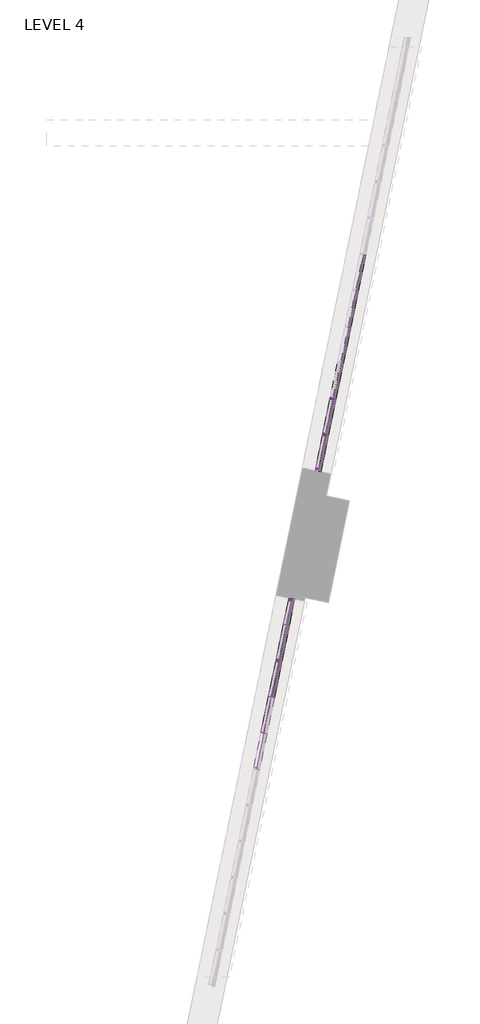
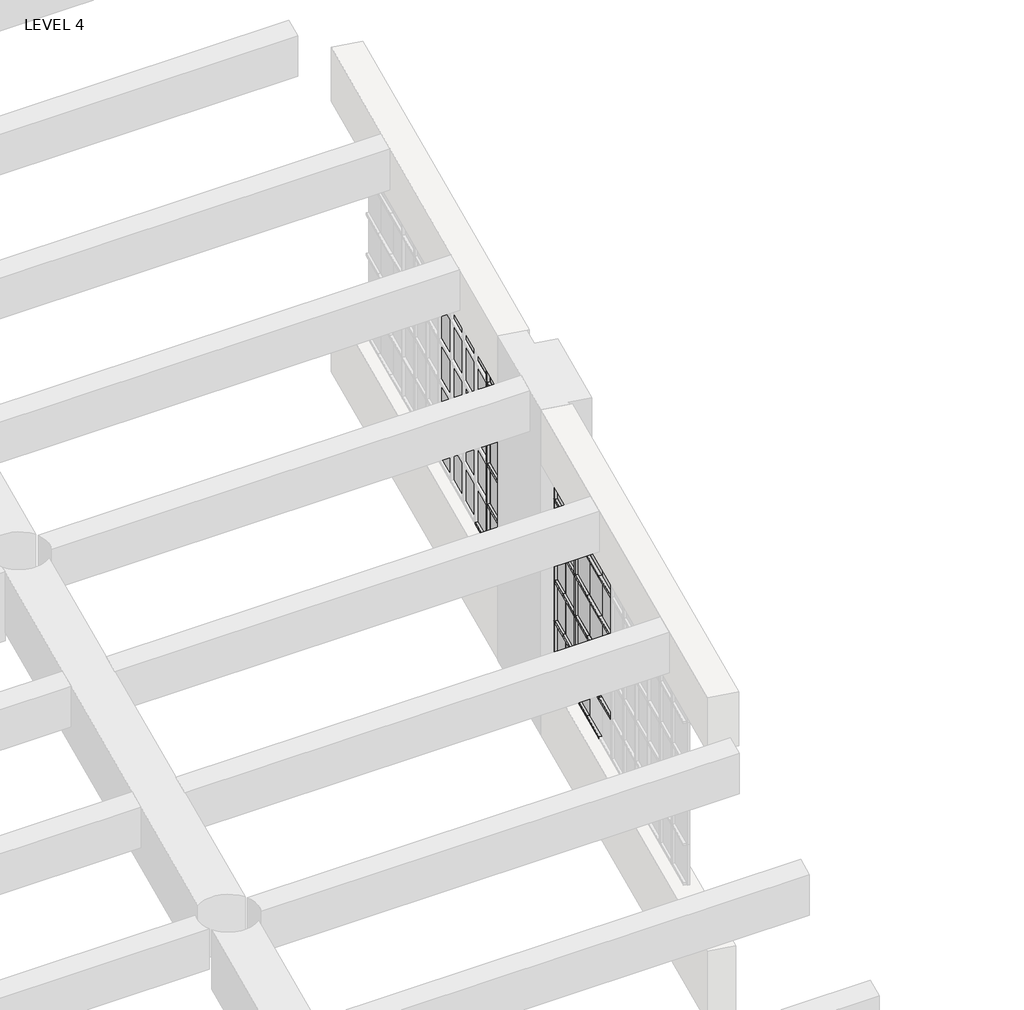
# One storey, part 21 of 26: 67 members, 51 plates.
"""IFC4 building model written with IfcOpenShell, lengths in millimetres."""

from ifc_helpers import new_model, si_unit, origin, place, context, project, spatial, transform, mapped, element, save
from components import member_038dcf1c, member_0e6c94ff, member_d9fec558, member_3d4b608b, member_3c10d71f, member_653bb31e, member_9ec6e97d, member_6e26db71, member_643a3807, member_ec43e15b, member_6c57b699, member_0f6da5c5, member_4e7b30ca, member_41439c15, system_panel_glazed_ab35d819, system_panel_glazed_9007666c, system_panel_glazed_418eb6cd, system_panel_glazed_a50cffbe

model = new_model("IFC4")

# Units and contexts
model_context = context("Model", 3, world=origin())
ifc_project = project(units=[si_unit("LENGTHUNIT", "METRE", prefix="MILLI")], contexts=[model_context])

# Site, building, storey
site = spatial("IfcSite", under=ifc_project)
building = spatial("IfcBuilding", under=site)
storey = spatial("IfcBuildingStorey", under=building, Name="LEVEL 4", Elevation=0.0)

# Members
placement = place(None, origin())
member_shape = member_038dcf1c(model_context)
element("IfcMember", 1, ObjectType="Circular Mullion : 1 1/4\" Square", at=placement, inside=storey, context=model_context, shape_type="MappedRepresentation", body=[
    mapped(member_shape, transform((21560.2078934, 106065.3665584, 2628.9), x_axis=(-0.2022212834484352, -0.9793398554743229, 0.0), y_axis=(0.9793398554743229, -0.2022212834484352, 0.0), z_axis=(0.0, 0.0, 1.0))),
])
element("IfcMember", 2, ObjectType="Circular Mullion : 1 1/4\" Square", at=placement, inside=storey, context=model_context, shape_type="MappedRepresentation", body=[
    mapped(member_shape, transform((21560.2078934, 106065.3665584, 2171.7), x_axis=(-0.2022212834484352, -0.9793398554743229, 0.0), y_axis=(0.9793398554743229, -0.2022212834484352, 0.0), z_axis=(0.0, 0.0, 1.0))),
])
element("IfcMember", 3, ObjectType="Circular Mullion : 1 1/4\" Square", at=placement, inside=storey, context=model_context, shape_type="MappedRepresentation", body=[
    mapped(member_shape, transform((21560.2078934, 106065.3665584, 1714.5), x_axis=(-0.2022212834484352, -0.9793398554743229, 0.0), y_axis=(0.9793398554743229, -0.2022212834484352, 0.0), z_axis=(0.0, 0.0, 1.0))),
])
element("IfcMember", 4, ObjectType="Circular Mullion : 1 1/4\" Square", at=placement, inside=storey, context=model_context, shape_type="MappedRepresentation", body=[
    mapped(member_shape, transform((21304.7441324, 104834.2926022, 2171.7), x_axis=(0.20222128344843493, 0.979339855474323, 0.0), y_axis=(0.979339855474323, -0.20222128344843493, 0.0), z_axis=(0.0, 0.0, -1.0))),
])
element("IfcMember", 5, ObjectType="Circular Mullion : 1 1/4\" Square", at=placement, inside=storey, context=model_context, shape_type="MappedRepresentation", body=[
    mapped(member_shape, transform((21304.7441324, 104834.2926022, 1714.5), x_axis=(0.20222128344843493, 0.979339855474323, 0.0), y_axis=(0.979339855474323, -0.20222128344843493, 0.0), z_axis=(0.0, 0.0, -1.0))),
])
element("IfcMember", 6, ObjectType="Circular Mullion : 1 1/4\" Square", at=placement, inside=storey, context=model_context, shape_type="MappedRepresentation", body=[
    mapped(member_shape, transform((21304.7441324, 104834.2926022, 1257.3), x_axis=(0.20222128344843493, 0.979339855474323, 0.0), y_axis=(0.979339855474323, -0.20222128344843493, 0.0), z_axis=(0.0, 0.0, -1.0))),
])
element("IfcMember", 7, ObjectType="Circular Mullion : 1 1/4\" Square", at=placement, inside=storey, context=model_context, shape_type="MappedRepresentation", body=[
    mapped(member_shape, transform((21560.2078934, 106065.3665584, 1257.3), x_axis=(-0.2022212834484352, -0.9793398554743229, 0.0), y_axis=(0.9793398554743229, -0.2022212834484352, 0.0), z_axis=(0.0, 0.0, 1.0))),
])
element("IfcMember", 8, ObjectType="Circular Mullion : 1 1/4\" Square", at=placement, inside=storey, context=model_context, shape_type="MappedRepresentation", body=[
    mapped(member_shape, transform((21304.7441324, 104834.2926022, 800.1), x_axis=(0.20222128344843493, 0.979339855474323, 0.0), y_axis=(0.979339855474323, -0.20222128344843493, 0.0), z_axis=(0.0, 0.0, -1.0))),
])
member_2_shape = member_0e6c94ff(model_context)
element("IfcMember", 9, ObjectType="Circular Mullion : 1 1/4\" Square", at=placement, inside=storey, context=model_context, shape_type="MappedRepresentation", body=[
    mapped(member_2_shape, transform((21560.2078934, 106065.3665584, 3060.7), x_axis=(-0.2022212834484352, -0.9793398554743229, 0.0), y_axis=(0.9793398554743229, -0.2022212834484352, 0.0), z_axis=(0.0, 0.0, 1.0))),
])
element("IfcMember", 10, ObjectType="Circular Mullion : 1 1/4\" Square", at=placement, inside=storey, context=model_context, shape_type="MappedRepresentation", body=[
    mapped(member_2_shape, transform((21304.7441324, 104834.2926022, 2628.9), x_axis=(0.20222128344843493, 0.979339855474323, 0.0), y_axis=(0.979339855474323, -0.20222128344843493, 0.0), z_axis=(0.0, 0.0, -1.0))),
])
member_3_shape = member_d9fec558(model_context)
element("IfcMember", 11, ObjectType="Circular Mullion : 1 1/4\" Square", at=placement, inside=storey, context=model_context, shape_type="MappedRepresentation", body=[
    mapped(member_3_shape, transform((21181.4700381, 104237.2870266, 2628.9), x_axis=(0.20222128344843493, 0.979339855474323, 0.0), y_axis=(0.979339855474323, -0.20222128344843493, 0.0), z_axis=(0.0, 0.0, -1.0))),
])
element("IfcMember", 12, ObjectType="Circular Mullion : 1 1/4\" Square", at=placement, inside=storey, context=model_context, shape_type="MappedRepresentation", body=[
    mapped(member_3_shape, transform((21704.0276702, 106761.873064, 2628.9), x_axis=(0.2022212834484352, 0.9793398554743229, 0.0), y_axis=(0.9793398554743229, -0.2022212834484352, 0.0), z_axis=(0.0, 0.0, -1.0))),
])
element("IfcMember", 13, ObjectType="Circular Mullion : 1 1/4\" Square", at=placement, inside=storey, context=model_context, shape_type="MappedRepresentation", body=[
    mapped(member_3_shape, transform((21632.1177818, 106413.6198113, 2628.9), x_axis=(0.2022212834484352, 0.9793398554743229, 0.0), y_axis=(0.9793398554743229, -0.2022212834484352, 0.0), z_axis=(0.0, 0.0, -1.0))),
])
member_4_shape = member_3d4b608b(model_context)
element("IfcMember", 14, ObjectType="Circular Mullion : 1 1/4\" Square", at=placement, inside=storey, context=model_context, shape_type="MappedRepresentation", body=[
    mapped(member_4_shape, transform((21181.4700381, 104237.2870266, 2171.7), x_axis=(0.20222128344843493, 0.979339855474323, 0.0), y_axis=(0.979339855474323, -0.20222128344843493, 0.0), z_axis=(0.0, 0.0, -1.0))),
])
element("IfcMember", 15, ObjectType="Circular Mullion : 1 1/4\" Square", at=placement, inside=storey, context=model_context, shape_type="MappedRepresentation", body=[
    mapped(member_4_shape, transform((21181.4700381, 104237.2870266, 1714.5), x_axis=(0.20222128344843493, 0.979339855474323, 0.0), y_axis=(0.979339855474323, -0.20222128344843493, 0.0), z_axis=(0.0, 0.0, -1.0))),
])
element("IfcMember", 16, ObjectType="Circular Mullion : 1 1/4\" Square", at=placement, inside=storey, context=model_context, shape_type="MappedRepresentation", body=[
    mapped(member_4_shape, transform((21181.4700381, 104237.2870266, 1257.3), x_axis=(0.20222128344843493, 0.979339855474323, 0.0), y_axis=(0.979339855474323, -0.20222128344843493, 0.0), z_axis=(0.0, 0.0, -1.0))),
])
element("IfcMember", 17, ObjectType="Circular Mullion : 1 1/4\" Square", at=placement, inside=storey, context=model_context, shape_type="MappedRepresentation", body=[
    mapped(member_4_shape, transform((21704.0276702, 106761.873064, 2171.7), x_axis=(0.2022212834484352, 0.9793398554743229, 0.0), y_axis=(0.9793398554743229, -0.2022212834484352, 0.0), z_axis=(0.0, 0.0, -1.0))),
])
element("IfcMember", 18, ObjectType="Circular Mullion : 1 1/4\" Square", at=placement, inside=storey, context=model_context, shape_type="MappedRepresentation", body=[
    mapped(member_4_shape, transform((21704.0276702, 106761.873064, 1714.5), x_axis=(0.2022212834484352, 0.9793398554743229, 0.0), y_axis=(0.9793398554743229, -0.2022212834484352, 0.0), z_axis=(0.0, 0.0, -1.0))),
])
element("IfcMember", 19, ObjectType="Circular Mullion : 1 1/4\" Square", at=placement, inside=storey, context=model_context, shape_type="MappedRepresentation", body=[
    mapped(member_4_shape, transform((21704.0276702, 106761.873064, 1257.3), x_axis=(0.2022212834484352, 0.9793398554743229, 0.0), y_axis=(0.9793398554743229, -0.2022212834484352, 0.0), z_axis=(0.0, 0.0, -1.0))),
])
element("IfcMember", 20, ObjectType="Circular Mullion : 1 1/4\" Square", at=placement, inside=storey, context=model_context, shape_type="MappedRepresentation", body=[
    mapped(member_4_shape, transform((21632.1177818, 106413.6198113, 2171.7), x_axis=(0.2022212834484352, 0.9793398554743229, 0.0), y_axis=(0.9793398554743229, -0.2022212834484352, 0.0), z_axis=(0.0, 0.0, -1.0))),
])
element("IfcMember", 21, ObjectType="Circular Mullion : 1 1/4\" Square", at=placement, inside=storey, context=model_context, shape_type="MappedRepresentation", body=[
    mapped(member_4_shape, transform((21632.1177818, 106413.6198113, 1714.5), x_axis=(0.2022212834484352, 0.9793398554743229, 0.0), y_axis=(0.9793398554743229, -0.2022212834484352, 0.0), z_axis=(0.0, 0.0, -1.0))),
])
element("IfcMember", 22, ObjectType="Circular Mullion : 1 1/4\" Square", at=placement, inside=storey, context=model_context, shape_type="MappedRepresentation", body=[
    mapped(member_4_shape, transform((21632.1177818, 106413.6198113, 1257.3), x_axis=(0.2022212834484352, 0.9793398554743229, 0.0), y_axis=(0.9793398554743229, -0.2022212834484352, 0.0), z_axis=(0.0, 0.0, -1.0))),
])
element("IfcMember", 23, ObjectType="Circular Mullion : 1 1/4\" Square", at=placement, inside=storey, context=model_context, shape_type="MappedRepresentation", body=[
    mapped(member_4_shape, transform((21181.4700381, 104237.2870266, 800.1), x_axis=(0.20222128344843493, 0.979339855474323, 0.0), y_axis=(0.979339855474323, -0.20222128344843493, 0.0), z_axis=(0.0, 0.0, -1.0))),
])
element("IfcMember", 24, ObjectType="Circular Mullion : 1 1/4\" Square", at=placement, inside=storey, context=model_context, shape_type="MappedRepresentation", body=[
    mapped(member_4_shape, transform((21704.0276702, 106761.873064, 800.1), x_axis=(0.2022212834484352, 0.9793398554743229, 0.0), y_axis=(0.9793398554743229, -0.2022212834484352, 0.0), z_axis=(0.0, 0.0, -1.0))),
])
element("IfcMember", 25, ObjectType="Circular Mullion : 1 1/4\" Square", at=placement, inside=storey, context=model_context, shape_type="MappedRepresentation", body=[
    mapped(member_4_shape, transform((21632.1177818, 106413.6198113, 800.1), x_axis=(0.2022212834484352, 0.9793398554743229, 0.0), y_axis=(0.9793398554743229, -0.2022212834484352, 0.0), z_axis=(0.0, 0.0, -1.0))),
])
member_5_shape = member_3c10d71f(model_context)
element("IfcMember", 26, ObjectType="Circular Mullion : 1 1/4\" Square", at=placement, inside=storey, context=model_context, shape_type="MappedRepresentation", body=[
    mapped(member_5_shape, transform((21701.4594599, 106749.4354478, 3060.7), x_axis=(0.0, 0.0, 1.0), y_axis=(0.9793398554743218, -0.20222128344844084, 0.0), z_axis=(0.20222128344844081, 0.9793398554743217, 0.0))),
])
element("IfcMember", 27, ObjectType="Circular Mullion : 1 1/4\" Square", at=placement, inside=storey, context=model_context, shape_type="MappedRepresentation", body=[
    mapped(member_5_shape, transform((21634.6859921, 106426.0574275, 800.1), x_axis=(0.0, 0.0, -1.0), y_axis=(0.9793398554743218, -0.20222128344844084, 0.0), z_axis=(-0.20222128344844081, -0.9793398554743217, 0.0))),
])
element("IfcMember", 28, ObjectType="Circular Mullion : 1 1/4\" Square", at=placement, inside=storey, context=model_context, shape_type="MappedRepresentation", body=[
    mapped(member_5_shape, transform((21706.5958805, 106774.3106801, 800.1), x_axis=(0.0, 0.0, -1.0), y_axis=(0.9793398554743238, -0.20222128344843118, 0.0), z_axis=(-0.20222128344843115, -0.9793398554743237, 0.0))),
])
member_6_shape = member_653bb31e(model_context)
element("IfcMember", 29, ObjectType="Circular Mullion : 1 1/4\" Square", at=placement, inside=storey, context=model_context, shape_type="MappedRepresentation", body=[
    mapped(member_6_shape, transform((21701.4594599, 106749.4354478, 2628.9), x_axis=(0.0, 0.0, 1.0), y_axis=(0.9793398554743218, -0.20222128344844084, 0.0), z_axis=(0.20222128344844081, 0.9793398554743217, 0.0))),
])
element("IfcMember", 30, ObjectType="Circular Mullion : 1 1/4\" Square", at=placement, inside=storey, context=model_context, shape_type="MappedRepresentation", body=[
    mapped(member_6_shape, transform((21701.4594599, 106749.4354478, 2171.7), x_axis=(0.0, 0.0, 1.0), y_axis=(0.9793398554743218, -0.20222128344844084, 0.0), z_axis=(0.20222128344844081, 0.9793398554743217, 0.0))),
])
element("IfcMember", 31, ObjectType="Circular Mullion : 1 1/4\" Square", at=placement, inside=storey, context=model_context, shape_type="MappedRepresentation", body=[
    mapped(member_6_shape, transform((21701.4594599, 106749.4354478, 1714.5), x_axis=(0.0, 0.0, 1.0), y_axis=(0.9793398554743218, -0.20222128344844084, 0.0), z_axis=(0.20222128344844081, 0.9793398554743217, 0.0))),
])
element("IfcMember", 32, ObjectType="Circular Mullion : 1 1/4\" Square", at=placement, inside=storey, context=model_context, shape_type="MappedRepresentation", body=[
    mapped(member_6_shape, transform((21701.4594599, 106749.4354478, 1257.3), x_axis=(0.0, 0.0, 1.0), y_axis=(0.9793398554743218, -0.20222128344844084, 0.0), z_axis=(0.20222128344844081, 0.9793398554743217, 0.0))),
])
member_7_shape = member_9ec6e97d(model_context)
element("IfcMember", 33, ObjectType="Circular Mullion : 1 1/4\" Square", at=placement, inside=storey, context=model_context, shape_type="MappedRepresentation", body=[
    mapped(member_7_shape, transform((21629.5495715, 106401.1821952, 3060.7), x_axis=(0.0, 0.0, 1.0), y_axis=(0.9793398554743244, -0.2022212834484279, 0.0), z_axis=(0.20222128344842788, 0.9793398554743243, 0.0))),
])
element("IfcMember", 34, ObjectType="Circular Mullion : 1 1/4\" Square", at=placement, inside=storey, context=model_context, shape_type="MappedRepresentation", body=[
    mapped(member_7_shape, transform((21565.3443139, 106090.2417908, 800.1), x_axis=(0.0, 0.0, -1.0), y_axis=(0.9793398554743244, -0.2022212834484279, 0.0), z_axis=(-0.20222128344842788, -0.9793398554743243, 0.0))),
])
member_8_shape = member_6e26db71(model_context)
element("IfcMember", 35, ObjectType="Circular Mullion : 1 1/4\" Square", at=placement, inside=storey, context=model_context, shape_type="MappedRepresentation", body=[
    mapped(member_8_shape, transform((21629.5495715, 106401.1821952, 2628.9), x_axis=(0.0, 0.0, 1.0), y_axis=(0.9793398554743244, -0.2022212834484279, 0.0), z_axis=(0.20222128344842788, 0.9793398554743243, 0.0))),
])
element("IfcMember", 36, ObjectType="Circular Mullion : 1 1/4\" Square", at=placement, inside=storey, context=model_context, shape_type="MappedRepresentation", body=[
    mapped(member_8_shape, transform((21629.5495715, 106401.1821952, 2171.7), x_axis=(0.0, 0.0, 1.0), y_axis=(0.9793398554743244, -0.2022212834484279, 0.0), z_axis=(0.20222128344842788, 0.9793398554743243, 0.0))),
])
element("IfcMember", 37, ObjectType="Circular Mullion : 1 1/4\" Square", at=placement, inside=storey, context=model_context, shape_type="MappedRepresentation", body=[
    mapped(member_8_shape, transform((21629.5495715, 106401.1821952, 1714.5), x_axis=(0.0, 0.0, 1.0), y_axis=(0.9793398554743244, -0.2022212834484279, 0.0), z_axis=(0.20222128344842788, 0.9793398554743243, 0.0))),
])
element("IfcMember", 38, ObjectType="Circular Mullion : 1 1/4\" Square", at=placement, inside=storey, context=model_context, shape_type="MappedRepresentation", body=[
    mapped(member_8_shape, transform((21629.5495715, 106401.1821952, 1257.3), x_axis=(0.0, 0.0, 1.0), y_axis=(0.9793398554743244, -0.2022212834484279, 0.0), z_axis=(0.20222128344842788, 0.9793398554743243, 0.0))),
])
member_9_shape = member_643a3807(model_context)
element("IfcMember", 39, ObjectType="Circular Mullion : 1 1/4\" Square", at=placement, inside=storey, context=model_context, shape_type="MappedRepresentation", body=[
    mapped(member_9_shape, transform((21109.5601497, 103889.033774, 2628.9), x_axis=(0.0, 0.0, 1.0), y_axis=(0.9793398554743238, -0.20222128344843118, 0.0), z_axis=(0.20222128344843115, 0.9793398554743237, 0.0))),
])
element("IfcMember", 40, ObjectType="Circular Mullion : 1 1/4\" Square", at=placement, inside=storey, context=model_context, shape_type="MappedRepresentation", body=[
    mapped(member_9_shape, transform((21109.5601497, 103889.033774, 2171.7), x_axis=(0.0, 0.0, 1.0), y_axis=(0.9793398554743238, -0.20222128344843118, 0.0), z_axis=(0.20222128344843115, 0.9793398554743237, 0.0))),
])
element("IfcMember", 41, ObjectType="Circular Mullion : 1 1/4\" Square", at=placement, inside=storey, context=model_context, shape_type="MappedRepresentation", body=[
    mapped(member_9_shape, transform((21109.5601497, 103889.033774, 1714.5), x_axis=(0.0, 0.0, 1.0), y_axis=(0.9793398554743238, -0.20222128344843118, 0.0), z_axis=(0.20222128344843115, 0.9793398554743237, 0.0))),
])
element("IfcMember", 42, ObjectType="Circular Mullion : 1 1/4\" Square", at=placement, inside=storey, context=model_context, shape_type="MappedRepresentation", body=[
    mapped(member_9_shape, transform((21109.5601497, 103889.033774, 1257.3), x_axis=(0.0, 0.0, 1.0), y_axis=(0.9793398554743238, -0.20222128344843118, 0.0), z_axis=(0.20222128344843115, 0.9793398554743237, 0.0))),
])
member_10_shape = member_ec43e15b(model_context)
element("IfcMember", 43, ObjectType="Circular Mullion : 1 1/4\" Square", at=placement, inside=storey, context=model_context, shape_type="MappedRepresentation", body=[
    mapped(member_10_shape, transform((21109.5601497, 103889.033774, 3060.7), x_axis=(0.0, 0.0, 1.0), y_axis=(0.9793398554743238, -0.20222128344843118, 0.0), z_axis=(0.20222128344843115, 0.9793398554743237, 0.0))),
])
member_11_shape = member_6c57b699(model_context)
element("IfcMember", 44, ObjectType="Circular Mullion : 1 1/4\" Square", at=placement, inside=storey, context=model_context, shape_type="MappedRepresentation", body=[
    mapped(member_11_shape, transform((21037.6502613, 103540.7805214, 2628.9), x_axis=(0.0, 0.0, 1.0), y_axis=(0.9793398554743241, -0.20222128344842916, 0.0), z_axis=(0.20222128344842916, 0.9793398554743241, 0.0))),
])
element("IfcMember", 45, ObjectType="Circular Mullion : 1 1/4\" Square", at=placement, inside=storey, context=model_context, shape_type="MappedRepresentation", body=[
    mapped(member_11_shape, transform((21253.3799265, 104585.5402792, 2628.9), x_axis=(0.0, 0.0, 1.0), y_axis=(0.9793398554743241, -0.20222128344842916, 0.0), z_axis=(0.20222128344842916, 0.9793398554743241, 0.0))),
])
element("IfcMember", 46, ObjectType="Circular Mullion : 1 1/4\" Square", at=placement, inside=storey, context=model_context, shape_type="MappedRepresentation", body=[
    mapped(member_11_shape, transform((21037.6502613, 103540.7805214, 2171.7), x_axis=(0.0, 0.0, 1.0), y_axis=(0.9793398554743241, -0.20222128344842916, 0.0), z_axis=(0.20222128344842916, 0.9793398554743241, 0.0))),
])
element("IfcMember", 47, ObjectType="Circular Mullion : 1 1/4\" Square", at=placement, inside=storey, context=model_context, shape_type="MappedRepresentation", body=[
    mapped(member_11_shape, transform((21253.3799265, 104585.5402792, 2171.7), x_axis=(0.0, 0.0, 1.0), y_axis=(0.9793398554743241, -0.20222128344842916, 0.0), z_axis=(0.20222128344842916, 0.9793398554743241, 0.0))),
])
element("IfcMember", 48, ObjectType="Circular Mullion : 1 1/4\" Square", at=placement, inside=storey, context=model_context, shape_type="MappedRepresentation", body=[
    mapped(member_11_shape, transform((21037.6502613, 103540.7805214, 1714.5), x_axis=(0.0, 0.0, 1.0), y_axis=(0.9793398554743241, -0.20222128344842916, 0.0), z_axis=(0.20222128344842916, 0.9793398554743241, 0.0))),
])
element("IfcMember", 49, ObjectType="Circular Mullion : 1 1/4\" Square", at=placement, inside=storey, context=model_context, shape_type="MappedRepresentation", body=[
    mapped(member_11_shape, transform((21253.3799265, 104585.5402792, 1714.5), x_axis=(0.0, 0.0, 1.0), y_axis=(0.9793398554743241, -0.20222128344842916, 0.0), z_axis=(0.20222128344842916, 0.9793398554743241, 0.0))),
])
element("IfcMember", 50, ObjectType="Circular Mullion : 1 1/4\" Square", at=placement, inside=storey, context=model_context, shape_type="MappedRepresentation", body=[
    mapped(member_11_shape, transform((21037.6502613, 103540.7805214, 1257.3), x_axis=(0.0, 0.0, 1.0), y_axis=(0.9793398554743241, -0.20222128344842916, 0.0), z_axis=(0.20222128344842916, 0.9793398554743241, 0.0))),
])
element("IfcMember", 51, ObjectType="Circular Mullion : 1 1/4\" Square", at=placement, inside=storey, context=model_context, shape_type="MappedRepresentation", body=[
    mapped(member_11_shape, transform((21253.3799265, 104585.5402792, 1257.3), x_axis=(0.0, 0.0, 1.0), y_axis=(0.9793398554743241, -0.20222128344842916, 0.0), z_axis=(0.20222128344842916, 0.9793398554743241, 0.0))),
])
member_12_shape = member_0f6da5c5(model_context)
element("IfcMember", 52, ObjectType="Circular Mullion : 1 1/4\" Square", at=placement, inside=storey, context=model_context, shape_type="MappedRepresentation", body=[
    mapped(member_12_shape, transform((21037.6502613, 103540.7805214, 3060.7), x_axis=(0.0, 0.0, 1.0), y_axis=(0.9793398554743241, -0.20222128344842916, 0.0), z_axis=(0.20222128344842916, 0.9793398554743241, 0.0))),
])
element("IfcMember", 53, ObjectType="Circular Mullion : 1 1/4\" Square", at=placement, inside=storey, context=model_context, shape_type="MappedRepresentation", body=[
    mapped(member_12_shape, transform((21253.3799265, 104585.5402792, 3060.7), x_axis=(0.0, 0.0, 1.0), y_axis=(0.9793398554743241, -0.20222128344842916, 0.0), z_axis=(0.20222128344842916, 0.9793398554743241, 0.0))),
])
element("IfcMember", 54, ObjectType="Circular Mullion : 1 1/4\" Square", at=placement, inside=storey, context=model_context, shape_type="MappedRepresentation", body=[
    mapped(member_10_shape, transform((21037.6502613, 103540.7805214, 800.1), x_axis=(0.0, 0.0, -1.0), y_axis=(0.9793398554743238, -0.20222128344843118, 0.0), z_axis=(-0.20222128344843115, -0.9793398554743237, 0.0))),
])
element("IfcMember", 55, ObjectType="Circular Mullion : 1 1/4\" Square", at=placement, inside=storey, context=model_context, shape_type="MappedRepresentation", body=[
    mapped(member_12_shape, transform((21109.5601497, 103889.033774, 800.1), x_axis=(0.0, 0.0, -1.0), y_axis=(0.9793398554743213, -0.20222128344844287, 0.0), z_axis=(-0.20222128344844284, -0.9793398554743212, 0.0))),
])
member_13_shape = member_4e7b30ca(model_context)
element("IfcMember", 56, ObjectType="Circular Mullion : 1 1/4\" Square", at=placement, inside=storey, context=model_context, shape_type="MappedRepresentation", body=[
    mapped(member_13_shape, transform((21299.6077118, 104809.4173699, 3060.7), x_axis=(0.0, 0.0, 1.0), y_axis=(0.9793398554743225, -0.2022212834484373, 0.0), z_axis=(0.2022212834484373, 0.9793398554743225, 0.0))),
])
element("IfcMember", 57, ObjectType="Circular Mullion : 1 1/4\" Square", at=placement, inside=storey, context=model_context, shape_type="MappedRepresentation", body=[
    mapped(member_13_shape, transform((21253.3799265, 104585.5402792, 800.1), x_axis=(0.0, 0.0, -1.0), y_axis=(0.9793398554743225, -0.2022212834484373, 0.0), z_axis=(-0.2022212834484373, -0.9793398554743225, 0.0))),
])
member_14_shape = member_41439c15(model_context)
element("IfcMember", 58, ObjectType="Circular Mullion : 1 1/4\" Square", at=placement, inside=storey, context=model_context, shape_type="MappedRepresentation", body=[
    mapped(member_14_shape, transform((21299.6077118, 104809.4173699, 2628.9), x_axis=(0.0, 0.0, 1.0), y_axis=(0.9793398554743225, -0.2022212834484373, 0.0), z_axis=(0.2022212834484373, 0.9793398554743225, 0.0))),
])
element("IfcMember", 59, ObjectType="Circular Mullion : 1 1/4\" Square", at=placement, inside=storey, context=model_context, shape_type="MappedRepresentation", body=[
    mapped(member_14_shape, transform((21299.6077118, 104809.4173699, 2171.7), x_axis=(0.0, 0.0, 1.0), y_axis=(0.9793398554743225, -0.2022212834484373, 0.0), z_axis=(0.2022212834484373, 0.9793398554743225, 0.0))),
])
element("IfcMember", 60, ObjectType="Circular Mullion : 1 1/4\" Square", at=placement, inside=storey, context=model_context, shape_type="MappedRepresentation", body=[
    mapped(member_14_shape, transform((21299.6077118, 104809.4173699, 1714.5), x_axis=(0.0, 0.0, 1.0), y_axis=(0.9793398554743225, -0.2022212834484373, 0.0), z_axis=(0.2022212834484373, 0.9793398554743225, 0.0))),
])
element("IfcMember", 61, ObjectType="Circular Mullion : 1 1/4\" Square", at=placement, inside=storey, context=model_context, shape_type="MappedRepresentation", body=[
    mapped(member_14_shape, transform((21299.6077118, 104809.4173699, 1257.3), x_axis=(0.0, 0.0, 1.0), y_axis=(0.9793398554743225, -0.2022212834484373, 0.0), z_axis=(0.2022212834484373, 0.9793398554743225, 0.0))),
])
element("IfcMember", 62, ObjectType="Circular Mullion : 1 1/4\" Square", at=placement, inside=storey, context=model_context, shape_type="MappedRepresentation", body=[
    mapped(member_12_shape, transform((21178.9018278, 104224.8494104, 3060.7), x_axis=(0.0, 0.0, 1.0), y_axis=(0.9793398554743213, -0.20222128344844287, 0.0), z_axis=(0.20222128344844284, 0.9793398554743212, 0.0))),
])
element("IfcMember", 63, ObjectType="Circular Mullion : 1 1/4\" Square", at=placement, inside=storey, context=model_context, shape_type="MappedRepresentation", body=[
    mapped(member_12_shape, transform((21184.0382484, 104249.7246428, 800.1), x_axis=(0.0, 0.0, -1.0), y_axis=(0.9793398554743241, -0.20222128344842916, 0.0), z_axis=(-0.20222128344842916, -0.9793398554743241, 0.0))),
])
element("IfcMember", 64, ObjectType="Circular Mullion : 1 1/4\" Square", at=placement, inside=storey, context=model_context, shape_type="MappedRepresentation", body=[
    mapped(member_11_shape, transform((21178.9018278, 104224.8494104, 2628.9), x_axis=(0.0, 0.0, 1.0), y_axis=(0.9793398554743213, -0.20222128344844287, 0.0), z_axis=(0.20222128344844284, 0.9793398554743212, 0.0))),
])
element("IfcMember", 65, ObjectType="Circular Mullion : 1 1/4\" Square", at=placement, inside=storey, context=model_context, shape_type="MappedRepresentation", body=[
    mapped(member_11_shape, transform((21178.9018278, 104224.8494104, 2171.7), x_axis=(0.0, 0.0, 1.0), y_axis=(0.9793398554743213, -0.20222128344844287, 0.0), z_axis=(0.20222128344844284, 0.9793398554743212, 0.0))),
])
element("IfcMember", 66, ObjectType="Circular Mullion : 1 1/4\" Square", at=placement, inside=storey, context=model_context, shape_type="MappedRepresentation", body=[
    mapped(member_11_shape, transform((21178.9018278, 104224.8494104, 1714.5), x_axis=(0.0, 0.0, 1.0), y_axis=(0.9793398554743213, -0.20222128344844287, 0.0), z_axis=(0.20222128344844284, 0.9793398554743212, 0.0))),
])
element("IfcMember", 67, ObjectType="Circular Mullion : 1 1/4\" Square", at=placement, inside=storey, context=model_context, shape_type="MappedRepresentation", body=[
    mapped(member_11_shape, transform((21178.9018278, 104224.8494104, 1257.3), x_axis=(0.0, 0.0, 1.0), y_axis=(0.9793398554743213, -0.20222128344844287, 0.0), z_axis=(0.20222128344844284, 0.9793398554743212, 0.0))),
])

# Plates
system_panel_glazed_shape = system_panel_glazed_ab35d819(model_context)
element("IfcPlate", 68, ObjectType="System Panel : Glazed", at=placement, inside=storey, context=model_context, shape_type="MappedRepresentation", body=[
    mapped(system_panel_glazed_shape, transform((21596.1628376, 106239.4931849, 800.1), x_axis=(0.2022212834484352, 0.9793398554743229, 0.0), y_axis=(-0.9793398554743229, 0.2022212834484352, 0.0), z_axis=(0.0, 0.0, 1.0))),
])
element("IfcPlate", 69, ObjectType="System Panel : Glazed", at=placement, inside=storey, context=model_context, shape_type="MappedRepresentation", body=[
    mapped(system_panel_glazed_shape, transform((21217.4249823, 104411.4136529, 800.1), x_axis=(0.20222128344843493, 0.979339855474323, 0.0), y_axis=(-0.979339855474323, 0.20222128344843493, 0.0), z_axis=(0.0, 0.0, 1.0))),
])
element("IfcPlate", 70, ObjectType="System Panel : Glazed", at=placement, inside=storey, context=model_context, shape_type="MappedRepresentation", body=[
    mapped(system_panel_glazed_shape, transform((21955.7122796, 107980.7594481, 800.1), x_axis=(0.2022212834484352, 0.9793398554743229, 0.0), y_axis=(-0.9793398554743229, 0.2022212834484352, 0.0), z_axis=(0.0, 0.0, 1.0))),
])
element("IfcPlate", 71, ObjectType="System Panel : Glazed", at=placement, inside=storey, context=model_context, shape_type="MappedRepresentation", body=[
    mapped(system_panel_glazed_shape, transform((21883.8023912, 107632.5061955, 800.1), x_axis=(0.2022212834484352, 0.9793398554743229, 0.0), y_axis=(-0.9793398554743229, 0.2022212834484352, 0.0), z_axis=(0.0, 0.0, 1.0))),
])
element("IfcPlate", 72, ObjectType="System Panel : Glazed", at=placement, inside=storey, context=model_context, shape_type="MappedRepresentation", body=[
    mapped(system_panel_glazed_shape, transform((21596.1628376, 106239.4931849, 1257.3), x_axis=(0.2022212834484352, 0.9793398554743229, 0.0), y_axis=(-0.9793398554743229, 0.2022212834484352, 0.0), z_axis=(0.0, 0.0, 1.0))),
])
element("IfcPlate", 73, ObjectType="System Panel : Glazed", at=placement, inside=storey, context=model_context, shape_type="MappedRepresentation", body=[
    mapped(system_panel_glazed_shape, transform((21955.7122796, 107980.7594481, 1257.3), x_axis=(0.2022212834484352, 0.9793398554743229, 0.0), y_axis=(-0.9793398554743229, 0.2022212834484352, 0.0), z_axis=(0.0, 0.0, 1.0))),
])
element("IfcPlate", 74, ObjectType="System Panel : Glazed", at=placement, inside=storey, context=model_context, shape_type="MappedRepresentation", body=[
    mapped(system_panel_glazed_shape, transform((21883.8023912, 107632.5061955, 1257.3), x_axis=(0.2022212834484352, 0.9793398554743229, 0.0), y_axis=(-0.9793398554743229, 0.2022212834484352, 0.0), z_axis=(0.0, 0.0, 1.0))),
])
element("IfcPlate", 75, ObjectType="System Panel : Glazed", at=placement, inside=storey, context=model_context, shape_type="MappedRepresentation", body=[
    mapped(system_panel_glazed_shape, transform((21596.1628376, 106239.4931849, 1714.5), x_axis=(0.2022212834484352, 0.9793398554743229, 0.0), y_axis=(-0.9793398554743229, 0.2022212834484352, 0.0), z_axis=(0.0, 0.0, 1.0))),
])
element("IfcPlate", 76, ObjectType="System Panel : Glazed", at=placement, inside=storey, context=model_context, shape_type="MappedRepresentation", body=[
    mapped(system_panel_glazed_shape, transform((21955.7122796, 107980.7594481, 1714.5), x_axis=(0.2022212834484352, 0.9793398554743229, 0.0), y_axis=(-0.9793398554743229, 0.2022212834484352, 0.0), z_axis=(0.0, 0.0, 1.0))),
])
element("IfcPlate", 77, ObjectType="System Panel : Glazed", at=placement, inside=storey, context=model_context, shape_type="MappedRepresentation", body=[
    mapped(system_panel_glazed_shape, transform((21883.8023912, 107632.5061955, 1714.5), x_axis=(0.2022212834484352, 0.9793398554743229, 0.0), y_axis=(-0.9793398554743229, 0.2022212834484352, 0.0), z_axis=(0.0, 0.0, 1.0))),
])
element("IfcPlate", 78, ObjectType="System Panel : Glazed", at=placement, inside=storey, context=model_context, shape_type="MappedRepresentation", body=[
    mapped(system_panel_glazed_shape, transform((21596.1628376, 106239.4931849, 2171.7), x_axis=(0.2022212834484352, 0.9793398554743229, 0.0), y_axis=(-0.9793398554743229, 0.2022212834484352, 0.0), z_axis=(0.0, 0.0, 1.0))),
])
element("IfcPlate", 79, ObjectType="System Panel : Glazed", at=placement, inside=storey, context=model_context, shape_type="MappedRepresentation", body=[
    mapped(system_panel_glazed_shape, transform((21955.7122796, 107980.7594481, 2171.7), x_axis=(0.2022212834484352, 0.9793398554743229, 0.0), y_axis=(-0.9793398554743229, 0.2022212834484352, 0.0), z_axis=(0.0, 0.0, 1.0))),
])
element("IfcPlate", 80, ObjectType="System Panel : Glazed", at=placement, inside=storey, context=model_context, shape_type="MappedRepresentation", body=[
    mapped(system_panel_glazed_shape, transform((21883.8023912, 107632.5061955, 2171.7), x_axis=(0.2022212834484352, 0.9793398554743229, 0.0), y_axis=(-0.9793398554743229, 0.2022212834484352, 0.0), z_axis=(0.0, 0.0, 1.0))),
])
element("IfcPlate", 81, ObjectType="System Panel : Glazed", at=placement, inside=storey, context=model_context, shape_type="MappedRepresentation", body=[
    mapped(system_panel_glazed_shape, transform((21145.5150939, 104063.1604003, 800.1), x_axis=(0.20222128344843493, 0.979339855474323, 0.0), y_axis=(-0.979339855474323, 0.20222128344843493, 0.0), z_axis=(0.0, 0.0, 1.0))),
])
element("IfcPlate", 82, ObjectType="System Panel : Glazed", at=placement, inside=storey, context=model_context, shape_type="MappedRepresentation", body=[
    mapped(system_panel_glazed_shape, transform((21145.5150939, 104063.1604003, 1257.3), x_axis=(0.20222128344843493, 0.979339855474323, 0.0), y_axis=(-0.979339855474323, 0.20222128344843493, 0.0), z_axis=(0.0, 0.0, 1.0))),
])
element("IfcPlate", 83, ObjectType="System Panel : Glazed", at=placement, inside=storey, context=model_context, shape_type="MappedRepresentation", body=[
    mapped(system_panel_glazed_shape, transform((21217.4249823, 104411.4136529, 1257.3), x_axis=(0.20222128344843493, 0.979339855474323, 0.0), y_axis=(-0.979339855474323, 0.20222128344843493, 0.0), z_axis=(0.0, 0.0, 1.0))),
])
element("IfcPlate", 84, ObjectType="System Panel : Glazed", at=placement, inside=storey, context=model_context, shape_type="MappedRepresentation", body=[
    mapped(system_panel_glazed_shape, transform((21145.5150939, 104063.1604003, 1714.5), x_axis=(0.20222128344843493, 0.979339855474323, 0.0), y_axis=(-0.979339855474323, 0.20222128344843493, 0.0), z_axis=(0.0, 0.0, 1.0))),
])
element("IfcPlate", 85, ObjectType="System Panel : Glazed", at=placement, inside=storey, context=model_context, shape_type="MappedRepresentation", body=[
    mapped(system_panel_glazed_shape, transform((21073.6052055, 103714.9071477, 1714.5), x_axis=(0.20222128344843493, 0.979339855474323, 0.0), y_axis=(-0.979339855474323, 0.20222128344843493, 0.0), z_axis=(0.0, 0.0, 1.0))),
])
element("IfcPlate", 86, ObjectType="System Panel : Glazed", at=placement, inside=storey, context=model_context, shape_type="MappedRepresentation", body=[
    mapped(system_panel_glazed_shape, transform((21001.6953171, 103366.6538951, 1714.5), x_axis=(0.20222128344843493, 0.979339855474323, 0.0), y_axis=(-0.979339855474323, 0.20222128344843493, 0.0), z_axis=(0.0, 0.0, 1.0))),
])
element("IfcPlate", 87, ObjectType="System Panel : Glazed", at=placement, inside=storey, context=model_context, shape_type="MappedRepresentation", body=[
    mapped(system_panel_glazed_shape, transform((21217.4249823, 104411.4136529, 1714.5), x_axis=(0.20222128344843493, 0.979339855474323, 0.0), y_axis=(-0.979339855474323, 0.20222128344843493, 0.0), z_axis=(0.0, 0.0, 1.0))),
])
element("IfcPlate", 88, ObjectType="System Panel : Glazed", at=placement, inside=storey, context=model_context, shape_type="MappedRepresentation", body=[
    mapped(system_panel_glazed_shape, transform((21145.5150939, 104063.1604003, 2171.7), x_axis=(0.20222128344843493, 0.979339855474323, 0.0), y_axis=(-0.979339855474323, 0.20222128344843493, 0.0), z_axis=(0.0, 0.0, 1.0))),
])
element("IfcPlate", 89, ObjectType="System Panel : Glazed", at=placement, inside=storey, context=model_context, shape_type="MappedRepresentation", body=[
    mapped(system_panel_glazed_shape, transform((21073.6052055, 103714.9071477, 2171.7), x_axis=(0.20222128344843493, 0.979339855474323, 0.0), y_axis=(-0.979339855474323, 0.20222128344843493, 0.0), z_axis=(0.0, 0.0, 1.0))),
])
element("IfcPlate", 90, ObjectType="System Panel : Glazed", at=placement, inside=storey, context=model_context, shape_type="MappedRepresentation", body=[
    mapped(system_panel_glazed_shape, transform((21001.6953171, 103366.6538951, 2171.7), x_axis=(0.20222128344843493, 0.979339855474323, 0.0), y_axis=(-0.979339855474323, 0.20222128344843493, 0.0), z_axis=(0.0, 0.0, 1.0))),
])
element("IfcPlate", 91, ObjectType="System Panel : Glazed", at=placement, inside=storey, context=model_context, shape_type="MappedRepresentation", body=[
    mapped(system_panel_glazed_shape, transform((21217.4249823, 104411.4136529, 2171.7), x_axis=(0.20222128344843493, 0.979339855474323, 0.0), y_axis=(-0.979339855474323, 0.20222128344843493, 0.0), z_axis=(0.0, 0.0, 1.0))),
])
element("IfcPlate", 92, ObjectType="System Panel : Glazed", at=placement, inside=storey, context=model_context, shape_type="MappedRepresentation", body=[
    mapped(system_panel_glazed_shape, transform((21811.8925028, 107284.2529429, 800.1), x_axis=(0.2022212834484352, 0.9793398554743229, 0.0), y_axis=(-0.9793398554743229, 0.2022212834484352, 0.0), z_axis=(0.0, 0.0, 1.0))),
])
element("IfcPlate", 93, ObjectType="System Panel : Glazed", at=placement, inside=storey, context=model_context, shape_type="MappedRepresentation", body=[
    mapped(system_panel_glazed_shape, transform((21811.8925028, 107284.2529429, 1257.3), x_axis=(0.2022212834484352, 0.9793398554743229, 0.0), y_axis=(-0.9793398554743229, 0.2022212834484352, 0.0), z_axis=(0.0, 0.0, 1.0))),
])
element("IfcPlate", 94, ObjectType="System Panel : Glazed", at=placement, inside=storey, context=model_context, shape_type="MappedRepresentation", body=[
    mapped(system_panel_glazed_shape, transform((21811.8925028, 107284.2529429, 1714.5), x_axis=(0.2022212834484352, 0.9793398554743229, 0.0), y_axis=(-0.9793398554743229, 0.2022212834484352, 0.0), z_axis=(0.0, 0.0, 1.0))),
])
element("IfcPlate", 95, ObjectType="System Panel : Glazed", at=placement, inside=storey, context=model_context, shape_type="MappedRepresentation", body=[
    mapped(system_panel_glazed_shape, transform((21811.8925028, 107284.2529429, 2171.7), x_axis=(0.2022212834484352, 0.9793398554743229, 0.0), y_axis=(-0.9793398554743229, 0.2022212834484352, 0.0), z_axis=(0.0, 0.0, 1.0))),
])
element("IfcPlate", 96, ObjectType="System Panel : Glazed", at=placement, inside=storey, context=model_context, shape_type="MappedRepresentation", body=[
    mapped(system_panel_glazed_shape, transform((21739.9826144, 106935.9996903, 800.1), x_axis=(0.2022212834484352, 0.9793398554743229, 0.0), y_axis=(-0.9793398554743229, 0.2022212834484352, 0.0), z_axis=(0.0, 0.0, 1.0))),
])
element("IfcPlate", 97, ObjectType="System Panel : Glazed", at=placement, inside=storey, context=model_context, shape_type="MappedRepresentation", body=[
    mapped(system_panel_glazed_shape, transform((21739.9826144, 106935.9996903, 1257.3), x_axis=(0.2022212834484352, 0.9793398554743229, 0.0), y_axis=(-0.9793398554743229, 0.2022212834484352, 0.0), z_axis=(0.0, 0.0, 1.0))),
])
element("IfcPlate", 98, ObjectType="System Panel : Glazed", at=placement, inside=storey, context=model_context, shape_type="MappedRepresentation", body=[
    mapped(system_panel_glazed_shape, transform((21739.9826144, 106935.9996903, 1714.5), x_axis=(0.2022212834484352, 0.9793398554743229, 0.0), y_axis=(-0.9793398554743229, 0.2022212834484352, 0.0), z_axis=(0.0, 0.0, 1.0))),
])
element("IfcPlate", 99, ObjectType="System Panel : Glazed", at=placement, inside=storey, context=model_context, shape_type="MappedRepresentation", body=[
    mapped(system_panel_glazed_shape, transform((21739.9826144, 106935.9996903, 2171.7), x_axis=(0.2022212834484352, 0.9793398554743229, 0.0), y_axis=(-0.9793398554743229, 0.2022212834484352, 0.0), z_axis=(0.0, 0.0, 1.0))),
])
element("IfcPlate", 100, ObjectType="System Panel : Glazed", at=placement, inside=storey, context=model_context, shape_type="MappedRepresentation", body=[
    mapped(system_panel_glazed_shape, transform((21668.072726, 106587.7464377, 800.1), x_axis=(0.2022212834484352, 0.9793398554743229, 0.0), y_axis=(-0.9793398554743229, 0.2022212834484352, 0.0), z_axis=(0.0, 0.0, 1.0))),
])
element("IfcPlate", 101, ObjectType="System Panel : Glazed", at=placement, inside=storey, context=model_context, shape_type="MappedRepresentation", body=[
    mapped(system_panel_glazed_shape, transform((21668.072726, 106587.7464377, 1257.3), x_axis=(0.2022212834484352, 0.9793398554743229, 0.0), y_axis=(-0.9793398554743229, 0.2022212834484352, 0.0), z_axis=(0.0, 0.0, 1.0))),
])
element("IfcPlate", 102, ObjectType="System Panel : Glazed", at=placement, inside=storey, context=model_context, shape_type="MappedRepresentation", body=[
    mapped(system_panel_glazed_shape, transform((21668.072726, 106587.7464377, 1714.5), x_axis=(0.2022212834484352, 0.9793398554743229, 0.0), y_axis=(-0.9793398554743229, 0.2022212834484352, 0.0), z_axis=(0.0, 0.0, 1.0))),
])
element("IfcPlate", 103, ObjectType="System Panel : Glazed", at=placement, inside=storey, context=model_context, shape_type="MappedRepresentation", body=[
    mapped(system_panel_glazed_shape, transform((21668.072726, 106587.7464377, 2171.7), x_axis=(0.2022212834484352, 0.9793398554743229, 0.0), y_axis=(-0.9793398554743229, 0.2022212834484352, 0.0), z_axis=(0.0, 0.0, 1.0))),
])
system_panel_glazed_2_shape = system_panel_glazed_9007666c(model_context)
element("IfcPlate", 104, ObjectType="System Panel : Glazed", at=placement, inside=storey, context=model_context, shape_type="MappedRepresentation", body=[
    mapped(system_panel_glazed_2_shape, transform((21279.0620295, 104709.9164407, 800.1), x_axis=(0.20222128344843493, 0.979339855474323, 0.0), y_axis=(-0.979339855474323, 0.20222128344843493, 0.0), z_axis=(0.0, 0.0, 1.0))),
])
element("IfcPlate", 105, ObjectType="System Panel : Glazed", at=placement, inside=storey, context=model_context, shape_type="MappedRepresentation", body=[
    mapped(system_panel_glazed_2_shape, transform((21279.0620295, 104709.9164407, 1257.3), x_axis=(0.20222128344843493, 0.979339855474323, 0.0), y_axis=(-0.979339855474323, 0.20222128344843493, 0.0), z_axis=(0.0, 0.0, 1.0))),
])
element("IfcPlate", 106, ObjectType="System Panel : Glazed", at=placement, inside=storey, context=model_context, shape_type="MappedRepresentation", body=[
    mapped(system_panel_glazed_2_shape, transform((21279.0620295, 104709.9164407, 1714.5), x_axis=(0.20222128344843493, 0.979339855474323, 0.0), y_axis=(-0.979339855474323, 0.20222128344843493, 0.0), z_axis=(0.0, 0.0, 1.0))),
])
element("IfcPlate", 107, ObjectType="System Panel : Glazed", at=placement, inside=storey, context=model_context, shape_type="MappedRepresentation", body=[
    mapped(system_panel_glazed_2_shape, transform((21279.0620295, 104709.9164407, 2171.7), x_axis=(0.20222128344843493, 0.979339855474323, 0.0), y_axis=(-0.979339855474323, 0.20222128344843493, 0.0), z_axis=(0.0, 0.0, 1.0))),
])
system_panel_glazed_3_shape = system_panel_glazed_418eb6cd(model_context)
element("IfcPlate", 108, ObjectType="System Panel : Glazed", at=placement, inside=storey, context=model_context, shape_type="MappedRepresentation", body=[
    mapped(system_panel_glazed_3_shape, transform((21596.1628376, 106239.4931849, 2628.9), x_axis=(0.2022212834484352, 0.9793398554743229, 0.0), y_axis=(-0.9793398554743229, 0.2022212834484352, 0.0), z_axis=(0.0, 0.0, 1.0))),
])
element("IfcPlate", 109, ObjectType="System Panel : Glazed", at=placement, inside=storey, context=model_context, shape_type="MappedRepresentation", body=[
    mapped(system_panel_glazed_3_shape, transform((21955.7122796, 107980.7594481, 2628.9), x_axis=(0.2022212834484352, 0.9793398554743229, 0.0), y_axis=(-0.9793398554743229, 0.2022212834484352, 0.0), z_axis=(0.0, 0.0, 1.0))),
])
element("IfcPlate", 110, ObjectType="System Panel : Glazed", at=placement, inside=storey, context=model_context, shape_type="MappedRepresentation", body=[
    mapped(system_panel_glazed_3_shape, transform((21883.8023912, 107632.5061955, 2628.9), x_axis=(0.2022212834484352, 0.9793398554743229, 0.0), y_axis=(-0.9793398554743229, 0.2022212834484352, 0.0), z_axis=(0.0, 0.0, 1.0))),
])
element("IfcPlate", 111, ObjectType="System Panel : Glazed", at=placement, inside=storey, context=model_context, shape_type="MappedRepresentation", body=[
    mapped(system_panel_glazed_3_shape, transform((21145.5150939, 104063.1604003, 2628.9), x_axis=(0.20222128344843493, 0.979339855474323, 0.0), y_axis=(-0.979339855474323, 0.20222128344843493, 0.0), z_axis=(0.0, 0.0, 1.0))),
])
element("IfcPlate", 112, ObjectType="System Panel : Glazed", at=placement, inside=storey, context=model_context, shape_type="MappedRepresentation", body=[
    mapped(system_panel_glazed_3_shape, transform((21073.6052055, 103714.9071477, 2628.9), x_axis=(0.20222128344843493, 0.979339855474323, 0.0), y_axis=(-0.979339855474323, 0.20222128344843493, 0.0), z_axis=(0.0, 0.0, 1.0))),
])
element("IfcPlate", 113, ObjectType="System Panel : Glazed", at=placement, inside=storey, context=model_context, shape_type="MappedRepresentation", body=[
    mapped(system_panel_glazed_3_shape, transform((21001.6953171, 103366.6538951, 2628.9), x_axis=(0.20222128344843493, 0.979339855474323, 0.0), y_axis=(-0.979339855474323, 0.20222128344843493, 0.0), z_axis=(0.0, 0.0, 1.0))),
])
element("IfcPlate", 114, ObjectType="System Panel : Glazed", at=placement, inside=storey, context=model_context, shape_type="MappedRepresentation", body=[
    mapped(system_panel_glazed_3_shape, transform((21217.4249823, 104411.4136529, 2628.9), x_axis=(0.20222128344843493, 0.979339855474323, 0.0), y_axis=(-0.979339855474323, 0.20222128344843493, 0.0), z_axis=(0.0, 0.0, 1.0))),
])
element("IfcPlate", 115, ObjectType="System Panel : Glazed", at=placement, inside=storey, context=model_context, shape_type="MappedRepresentation", body=[
    mapped(system_panel_glazed_3_shape, transform((21811.8925028, 107284.2529429, 2628.9), x_axis=(0.2022212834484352, 0.9793398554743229, 0.0), y_axis=(-0.9793398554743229, 0.2022212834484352, 0.0), z_axis=(0.0, 0.0, 1.0))),
])
element("IfcPlate", 116, ObjectType="System Panel : Glazed", at=placement, inside=storey, context=model_context, shape_type="MappedRepresentation", body=[
    mapped(system_panel_glazed_3_shape, transform((21739.9826144, 106935.9996903, 2628.9), x_axis=(0.2022212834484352, 0.9793398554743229, 0.0), y_axis=(-0.9793398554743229, 0.2022212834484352, 0.0), z_axis=(0.0, 0.0, 1.0))),
])
element("IfcPlate", 117, ObjectType="System Panel : Glazed", at=placement, inside=storey, context=model_context, shape_type="MappedRepresentation", body=[
    mapped(system_panel_glazed_3_shape, transform((21668.072726, 106587.7464377, 2628.9), x_axis=(0.2022212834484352, 0.9793398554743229, 0.0), y_axis=(-0.9793398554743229, 0.2022212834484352, 0.0), z_axis=(0.0, 0.0, 1.0))),
])
system_panel_glazed_4_shape = system_panel_glazed_a50cffbe(model_context)
element("IfcPlate", 118, ObjectType="System Panel : Glazed", at=placement, inside=storey, context=model_context, shape_type="MappedRepresentation", body=[
    mapped(system_panel_glazed_4_shape, transform((21279.0620295, 104709.9164407, 2628.9), x_axis=(0.20222128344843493, 0.979339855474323, 0.0), y_axis=(-0.979339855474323, 0.20222128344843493, 0.0), z_axis=(0.0, 0.0, 1.0))),
])

save(model, "model.ifc")
